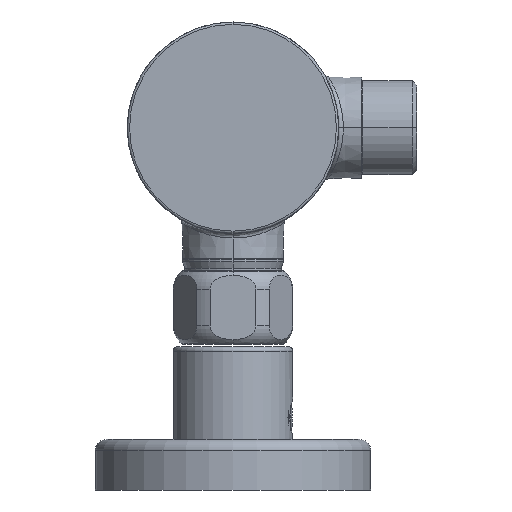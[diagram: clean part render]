
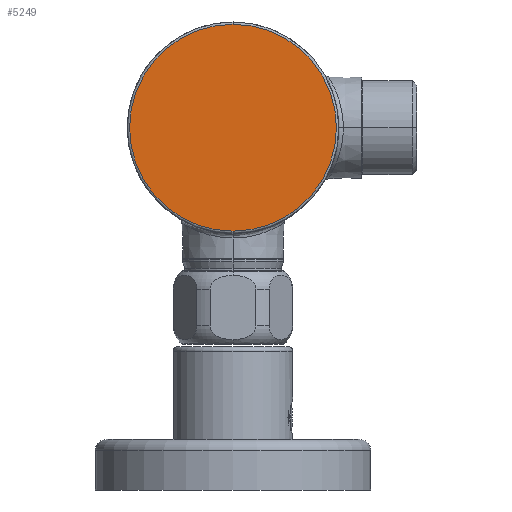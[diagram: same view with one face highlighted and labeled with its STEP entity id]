
A CAD part, left-side view. The second image highlights one B-rep face of the part: STEP entity #5249.
In plain terms, the highlighted planar face has unit normal (-1, 0, 0).
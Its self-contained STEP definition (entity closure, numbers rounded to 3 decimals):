
#1281=CARTESIAN_POINT('',(-128.,0.,0.));
#1282=DIRECTION('',(-1.,0.,0.));
#1283=DIRECTION('',(0.,0.,-1.));
#1284=AXIS2_PLACEMENT_3D('',#1281,#1282,#1283);
#1286=CARTESIAN_POINT('',(-128.,0.,0.));
#1287=DIRECTION('',(-1.,0.,0.));
#1288=DIRECTION('',(0.,0.,1.));
#1289=AXIS2_PLACEMENT_3D('',#1286,#1287,#1288);
#4512=CARTESIAN_POINT('',(-128.,0.,-22.5));
#4513=CARTESIAN_POINT('',(-128.,0.,22.5));
#4514=VERTEX_POINT('',#4512);
#4515=VERTEX_POINT('',#4513);
#5239=CARTESIAN_POINT('',(-128.,0.,0.));
#5240=DIRECTION('',(1.,0.,0.));
#5241=DIRECTION('',(0.,0.,-1.));
#5242=AXIS2_PLACEMENT_3D('',#5239,#5240,#5241);
#5243=PLANE('',#5242);
#5245=ORIENTED_EDGE('',*,*,#5244,.F.);
#5246=ORIENTED_EDGE('',*,*,#5229,.F.);
#5247=EDGE_LOOP('',(#5245,#5246));
#5248=FACE_OUTER_BOUND('',#5247,.F.);
#5249=ADVANCED_FACE('',(#5248),#5243,.F.);
#1285=CIRCLE('',#1284,22.5);
#1290=CIRCLE('',#1289,22.5);
#5229=EDGE_CURVE('',#4515,#4514,#1290,.T.);
#5244=EDGE_CURVE('',#4514,#4515,#1285,.T.);
